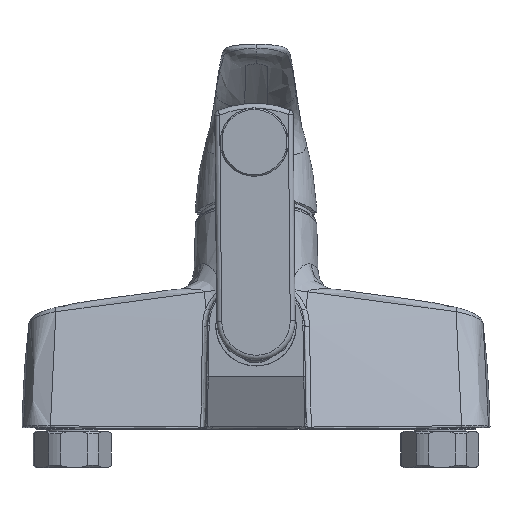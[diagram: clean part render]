
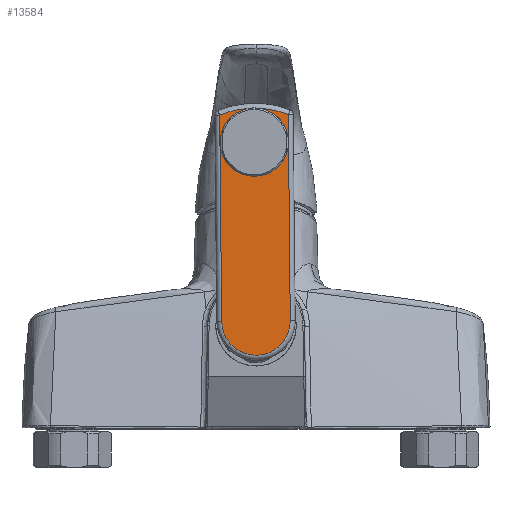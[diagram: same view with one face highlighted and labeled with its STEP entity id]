
A CAD part, front view. The second image highlights one B-rep face of the part: STEP entity #13584.
In plain terms, the highlighted planar face has unit normal (0, -1, 0).
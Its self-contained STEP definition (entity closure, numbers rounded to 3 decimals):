
#21 = AXIS2_PLACEMENT_3D ( 'NONE', #8106, #18233, #9624 ) ;
#750 = VERTEX_POINT ( 'NONE', #1935 ) ;
#763 = CARTESIAN_POINT ( 'NONE',  ( 13.837, -83.07, 60.083 ) ) ;
#1375 = FACE_OUTER_BOUND ( 'NONE', #14196, .T. ) ;
#1439 = EDGE_CURVE ( 'NONE', #8539, #12279, #15105, .T. ) ;
#1594 = CARTESIAN_POINT ( 'NONE',  ( -0.626, -83.07, 108.948 ) ) ;
#1645 = AXIS2_PLACEMENT_3D ( 'NONE', #14924, #6085, #16346 ) ;
#1693 = VERTEX_POINT ( 'NONE', #763 ) ;
#1935 = CARTESIAN_POINT ( 'NONE',  ( -14.959, -83.07, 143.944 ) ) ;
#2289 = LINE ( 'NONE', #4576, #13755 ) ;
#2790 = ORIENTED_EDGE ( 'NONE', *, *, #7314, .T. ) ;
#2914 = DIRECTION ( 'NONE',  ( 1., 0., 0. ) ) ;
#2975 = DIRECTION ( 'NONE',  ( 0., -1., 0. ) ) ;
#3037 = CARTESIAN_POINT ( 'NONE',  ( -0.854, -83.07, 132.947 ) ) ;
#3124 = DIRECTION ( 'NONE',  ( -0.009, 0., 1. ) ) ;
#3705 = EDGE_CURVE ( 'NONE', #1693, #17691, #2289, .T. ) ;
#3994 = VECTOR ( 'NONE', #10083, 1000. ) ;
#4576 = CARTESIAN_POINT ( 'NONE',  ( 13.025, -83.07, 145.739 ) ) ;
#6043 = PLANE ( 'NONE',  #17228 ) ;
#6085 = DIRECTION ( 'NONE',  ( 0., -1., 0. ) ) ;
#6113 = CARTESIAN_POINT ( 'NONE',  ( -0.162, -83.07, 59.95 ) ) ;
#7314 = EDGE_CURVE ( 'NONE', #17691, #12279, #9126, .T. ) ;
#7405 = CARTESIAN_POINT ( 'NONE',  ( -3.392, -83.07, 146.664 ) ) ;
#7611 = DIRECTION ( 'NONE',  ( -0.009, 0., 1. ) ) ;
#7621 = DIRECTION ( 'NONE',  ( -0.009, 0., 1. ) ) ;
#8106 = CARTESIAN_POINT ( 'NONE',  ( -0.626, -83.07, 108.948 ) ) ;
#8337 = CARTESIAN_POINT ( 'NONE',  ( 1.423, -83.07, 146.71 ) ) ;
#8502 = AXIS2_PLACEMENT_3D ( 'NONE', #6113, #16365, #7621 ) ;
#8539 = VERTEX_POINT ( 'NONE', #7405 ) ;
#8570 = CARTESIAN_POINT ( 'NONE',  ( -14.161, -83.07, 59.817 ) ) ;
#8688 = CIRCLE ( 'NONE', #8502, 14. ) ;
#9126 = CIRCLE ( 'NONE', #21, 37.817 ) ;
#9624 = DIRECTION ( 'NONE',  ( -0.009, 0., 1. ) ) ;
#9819 = ORIENTED_EDGE ( 'NONE', *, *, #18205, .T. ) ;
#10083 = DIRECTION ( 'NONE',  ( 0.009, 0., -1. ) ) ;
#10439 = CARTESIAN_POINT ( 'NONE',  ( -14.161, -83.07, 59.817 ) ) ;
#11249 = ORIENTED_EDGE ( 'NONE', *, *, #14360, .T. ) ;
#11514 = AXIS2_PLACEMENT_3D ( 'NONE', #3037, #2975, #2914 ) ;
#11905 = EDGE_CURVE ( 'NONE', #750, #12593, #14900, .T. ) ;
#12134 = DIRECTION ( 'NONE',  ( 0., -1., 0. ) ) ;
#12279 = VERTEX_POINT ( 'NONE', #8337 ) ;
#12593 = VERTEX_POINT ( 'NONE', #10439 ) ;
#12733 = CARTESIAN_POINT ( 'NONE',  ( 13.04, -83.07, 144.209 ) ) ;
#13584 = ADVANCED_FACE ( 'NONE', ( #1375 ), #6043, .T. ) ;
#13755 = VECTOR ( 'NONE', #7611, 1000. ) ;
#14196 = EDGE_LOOP ( 'NONE', ( #18821, #11249, #16407, #9819, #19010, #2790 ) ) ;
#14360 = EDGE_CURVE ( 'NONE', #8539, #750, #15988, .T. ) ;
#14900 = LINE ( 'NONE', #8570, #3994 ) ;
#14924 = CARTESIAN_POINT ( 'NONE',  ( -0.626, -83.07, 108.948 ) ) ;
#15105 = CIRCLE ( 'NONE', #11514, 13.95 ) ;
#15988 = CIRCLE ( 'NONE', #1645, 37.817 ) ;
#16346 = DIRECTION ( 'NONE',  ( -0.009, 0., 1. ) ) ;
#16365 = DIRECTION ( 'NONE',  ( 0., -1., 0. ) ) ;
#16407 = ORIENTED_EDGE ( 'NONE', *, *, #11905, .T. ) ;
#17228 = AXIS2_PLACEMENT_3D ( 'NONE', #1594, #12134, #3124 ) ;
#17691 = VERTEX_POINT ( 'NONE', #12733 ) ;
#18205 = EDGE_CURVE ( 'NONE', #12593, #1693, #8688, .T. ) ;
#18233 = DIRECTION ( 'NONE',  ( 0., -1., 0. ) ) ;
#18821 = ORIENTED_EDGE ( 'NONE', *, *, #1439, .F. ) ;
#19010 = ORIENTED_EDGE ( 'NONE', *, *, #3705, .T. ) ;
